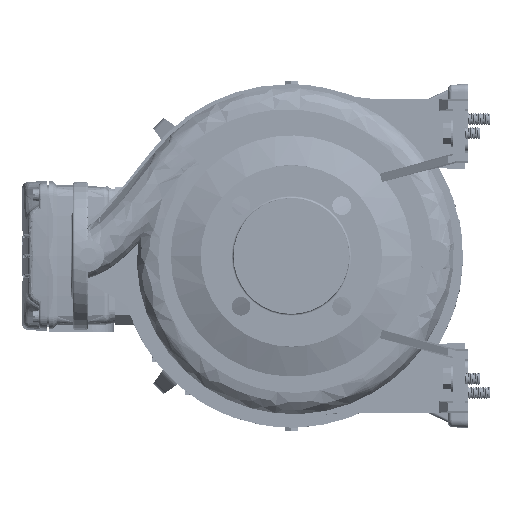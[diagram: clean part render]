
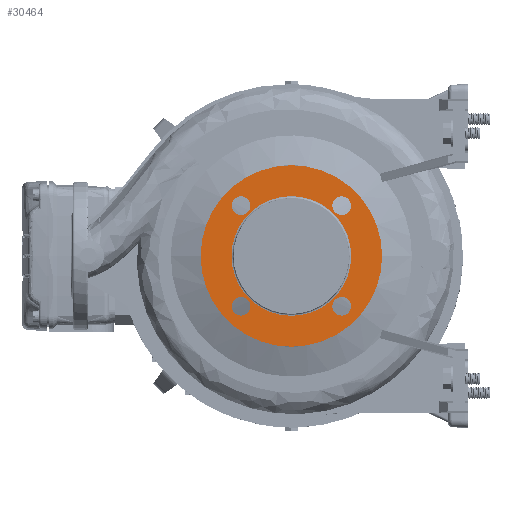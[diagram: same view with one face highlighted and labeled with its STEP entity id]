
A CAD part, left-side view. The second image highlights one B-rep face of the part: STEP entity #30464.
In plain terms, the highlighted planar face has unit normal (-1, 0, 0).
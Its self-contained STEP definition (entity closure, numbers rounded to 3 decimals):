
#5028 = AXIS2_PLACEMENT_3D ( 'NONE', #119740, #189684, #221843 ) ;
#5063 = VERTEX_POINT ( 'NONE', #206692 ) ;
#8277 = CARTESIAN_POINT ( 'NONE',  ( -65.146, 174.847, 267.323 ) ) ;
#9920 = VERTEX_POINT ( 'NONE', #21367 ) ;
#9933 = FACE_BOUND ( 'NONE', #67224, .T. ) ;
#11187 = AXIS2_PLACEMENT_3D ( 'NONE', #107379, #20139, #56855 ) ;
#14405 = EDGE_LOOP ( 'NONE', ( #71983, #94951 ) ) ;
#15901 = EDGE_CURVE ( 'NONE', #42062, #204725, #52524, .T. ) ;
#20139 = DIRECTION ( 'NONE',  ( -1., 0., 0. ) ) ;
#21367 = CARTESIAN_POINT ( 'NONE',  ( -65.146, 258.377, 267.323 ) ) ;
#22665 = CIRCLE ( 'NONE', #11187, 9.5 ) ;
#22918 = EDGE_CURVE ( 'NONE', #5063, #9920, #73671, .T. ) ;
#23123 = CIRCLE ( 'NONE', #206379, 61. ) ;
#24004 = CARTESIAN_POINT ( 'NONE',  ( -65.146, 165.347, 369.854 ) ) ;
#24246 = CARTESIAN_POINT ( 'NONE',  ( -65.146, 267.877, 369.854 ) ) ;
#24605 = EDGE_LOOP ( 'NONE', ( #154855, #47016 ) ) ;
#26669 = EDGE_CURVE ( 'NONE', #55309, #167031, #137102, .T. ) ;
#27542 = DIRECTION ( 'NONE',  ( 0., 0., -1. ) ) ;
#30464 = ADVANCED_FACE ( 'NONE', ( #48859, #186609, #132765, #221036, #9933, #79960 ), #171609, .T. ) ;
#35647 = CIRCLE ( 'NONE', #189464, 61. ) ;
#36079 = CARTESIAN_POINT ( 'NONE',  ( -65.146, 216.612, 318.588 ) ) ;
#38151 = AXIS2_PLACEMENT_3D ( 'NONE', #24004, #196181, #38991 ) ;
#38991 = DIRECTION ( 'NONE',  ( 0., 0., -1. ) ) ;
#42062 = VERTEX_POINT ( 'NONE', #164799 ) ;
#43657 = ORIENTED_EDGE ( 'NONE', *, *, #168333, .T. ) ;
#45190 = VERTEX_POINT ( 'NONE', #8277 ) ;
#45510 = DIRECTION ( 'NONE',  ( 0., 0., 1. ) ) ;
#45878 = DIRECTION ( 'NONE',  ( -1., 0., 0. ) ) ;
#46629 = DIRECTION ( 'NONE',  ( 0., -1., 0. ) ) ;
#47016 = ORIENTED_EDGE ( 'NONE', *, *, #22918, .F. ) ;
#48161 = CARTESIAN_POINT ( 'NONE',  ( -65.146, 267.877, 369.854 ) ) ;
#48859 = FACE_BOUND ( 'NONE', #24605, .T. ) ;
#49370 = DIRECTION ( 'NONE',  ( 1., 0., 0. ) ) ;
#49714 = AXIS2_PLACEMENT_3D ( 'NONE', #121216, #138431, #122352 ) ;
#52524 = CIRCLE ( 'NONE', #202728, 9.5 ) ;
#54388 = ORIENTED_EDGE ( 'NONE', *, *, #224987, .F. ) ;
#55309 = VERTEX_POINT ( 'NONE', #190754 ) ;
#55437 = AXIS2_PLACEMENT_3D ( 'NONE', #137044, #84225, #155339 ) ;
#56855 = DIRECTION ( 'NONE',  ( 0., 1., 0. ) ) ;
#59001 = EDGE_CURVE ( 'NONE', #45190, #131690, #22665, .T. ) ;
#59892 = CIRCLE ( 'NONE', #5028, 9.5 ) ;
#67224 = EDGE_LOOP ( 'NONE', ( #43657, #140438 ) ) ;
#68298 = DIRECTION ( 'NONE',  ( 1., 0., 0. ) ) ;
#68766 = AXIS2_PLACEMENT_3D ( 'NONE', #185485, #224399, #46629 ) ;
#69701 = AXIS2_PLACEMENT_3D ( 'NONE', #78103, #45878, #27542 ) ;
#70203 = EDGE_CURVE ( 'NONE', #204725, #42062, #149841, .T. ) ;
#71983 = ORIENTED_EDGE ( 'NONE', *, *, #26669, .F. ) ;
#73671 = CIRCLE ( 'NONE', #55437, 9.5 ) ;
#76615 = DIRECTION ( 'NONE',  ( 1., 0., 0. ) ) ;
#78103 = CARTESIAN_POINT ( 'NONE',  ( -65.146, 165.347, 369.854 ) ) ;
#79960 = FACE_OUTER_BOUND ( 'NONE', #220532, .T. ) ;
#81885 = EDGE_LOOP ( 'NONE', ( #133216, #182236 ) ) ;
#84225 = DIRECTION ( 'NONE',  ( -1., 0., 0. ) ) ;
#85594 = EDGE_CURVE ( 'NONE', #218340, #121469, #134154, .T. ) ;
#88670 = ORIENTED_EDGE ( 'NONE', *, *, #59001, .F. ) ;
#92714 = DIRECTION ( 'NONE',  ( 0., 1., 0. ) ) ;
#94022 = ORIENTED_EDGE ( 'NONE', *, *, #85594, .F. ) ;
#94951 = ORIENTED_EDGE ( 'NONE', *, *, #162644, .F. ) ;
#102390 = CARTESIAN_POINT ( 'NONE',  ( -65.146, 258.377, 369.854 ) ) ;
#103081 = CIRCLE ( 'NONE', #121451, 9.5 ) ;
#104783 = EDGE_CURVE ( 'NONE', #121469, #218340, #144379, .T. ) ;
#105924 = AXIS2_PLACEMENT_3D ( 'NONE', #48161, #223711, #222582 ) ;
#107379 = CARTESIAN_POINT ( 'NONE',  ( -65.146, 165.347, 267.323 ) ) ;
#110366 = DIRECTION ( 'NONE',  ( -1., 0., 0. ) ) ;
#113771 = DIRECTION ( 'NONE',  ( 0., -1., 0. ) ) ;
#118928 = CARTESIAN_POINT ( 'NONE',  ( -65.146, 267.877, 267.323 ) ) ;
#119740 = CARTESIAN_POINT ( 'NONE',  ( -65.146, 165.347, 267.323 ) ) ;
#121216 = CARTESIAN_POINT ( 'NONE',  ( -65.146, 216.612, 318.588 ) ) ;
#121451 = AXIS2_PLACEMENT_3D ( 'NONE', #118928, #132772, #45510 ) ;
#121469 = VERTEX_POINT ( 'NONE', #175741 ) ;
#121764 = CARTESIAN_POINT ( 'NONE',  ( -65.146, 155.612, 318.588 ) ) ;
#122352 = DIRECTION ( 'NONE',  ( 0., 1., 0. ) ) ;
#131690 = VERTEX_POINT ( 'NONE', #220450 ) ;
#132765 = FACE_BOUND ( 'NONE', #14405, .T. ) ;
#132772 = DIRECTION ( 'NONE',  ( -1., 0., 0. ) ) ;
#133216 = ORIENTED_EDGE ( 'NONE', *, *, #70203, .F. ) ;
#134154 = CIRCLE ( 'NONE', #49714, 92.5 ) ;
#136950 = VERTEX_POINT ( 'NONE', #226310 ) ;
#136995 = CARTESIAN_POINT ( 'NONE',  ( -65.146, 174.847, 369.854 ) ) ;
#137044 = CARTESIAN_POINT ( 'NONE',  ( -65.146, 267.877, 267.323 ) ) ;
#137102 = CIRCLE ( 'NONE', #38151, 9.5 ) ;
#138431 = DIRECTION ( 'NONE',  ( 1., 0., 0. ) ) ;
#140438 = ORIENTED_EDGE ( 'NONE', *, *, #172123, .T. ) ;
#144379 = CIRCLE ( 'NONE', #173131, 92.5 ) ;
#147574 = EDGE_LOOP ( 'NONE', ( #54388, #88670 ) ) ;
#149841 = CIRCLE ( 'NONE', #105924, 9.5 ) ;
#151572 = CARTESIAN_POINT ( 'NONE',  ( -65.146, 216.612, 318.588 ) ) ;
#154855 = ORIENTED_EDGE ( 'NONE', *, *, #166505, .F. ) ;
#155339 = DIRECTION ( 'NONE',  ( 0., 0., 1. ) ) ;
#156218 = CARTESIAN_POINT ( 'NONE',  ( -65.146, 309.112, 318.588 ) ) ;
#160007 = DIRECTION ( 'NONE',  ( 0., 1., 0. ) ) ;
#162644 = EDGE_CURVE ( 'NONE', #167031, #55309, #219897, .T. ) ;
#164799 = CARTESIAN_POINT ( 'NONE',  ( -65.146, 277.377, 369.854 ) ) ;
#166505 = EDGE_CURVE ( 'NONE', #9920, #5063, #103081, .T. ) ;
#167031 = VERTEX_POINT ( 'NONE', #136995 ) ;
#167401 = VERTEX_POINT ( 'NONE', #121764 ) ;
#168333 = EDGE_CURVE ( 'NONE', #136950, #167401, #23123, .T. ) ;
#171609 = PLANE ( 'NONE',  #68766 ) ;
#172123 = EDGE_CURVE ( 'NONE', #167401, #136950, #35647, .T. ) ;
#173131 = AXIS2_PLACEMENT_3D ( 'NONE', #197108, #76615, #92714 ) ;
#175741 = CARTESIAN_POINT ( 'NONE',  ( -65.146, 124.112, 318.588 ) ) ;
#182236 = ORIENTED_EDGE ( 'NONE', *, *, #15901, .F. ) ;
#185485 = CARTESIAN_POINT ( 'NONE',  ( -65.146, 277.612, 318.588 ) ) ;
#186609 = FACE_BOUND ( 'NONE', #147574, .T. ) ;
#189464 = AXIS2_PLACEMENT_3D ( 'NONE', #36079, #68298, #160007 ) ;
#189684 = DIRECTION ( 'NONE',  ( -1., 0., 0. ) ) ;
#190754 = CARTESIAN_POINT ( 'NONE',  ( -65.146, 155.847, 369.854 ) ) ;
#196181 = DIRECTION ( 'NONE',  ( -1., 0., 0. ) ) ;
#197108 = CARTESIAN_POINT ( 'NONE',  ( -65.146, 216.612, 318.588 ) ) ;
#202728 = AXIS2_PLACEMENT_3D ( 'NONE', #24246, #110366, #113771 ) ;
#204725 = VERTEX_POINT ( 'NONE', #102390 ) ;
#206343 = ORIENTED_EDGE ( 'NONE', *, *, #104783, .F. ) ;
#206379 = AXIS2_PLACEMENT_3D ( 'NONE', #151572, #49370, #221531 ) ;
#206692 = CARTESIAN_POINT ( 'NONE',  ( -65.146, 277.377, 267.323 ) ) ;
#218340 = VERTEX_POINT ( 'NONE', #156218 ) ;
#219897 = CIRCLE ( 'NONE', #69701, 9.5 ) ;
#220450 = CARTESIAN_POINT ( 'NONE',  ( -65.146, 155.847, 267.323 ) ) ;
#220532 = EDGE_LOOP ( 'NONE', ( #94022, #206343 ) ) ;
#221036 = FACE_BOUND ( 'NONE', #81885, .T. ) ;
#221531 = DIRECTION ( 'NONE',  ( 0., 1., 0. ) ) ;
#221843 = DIRECTION ( 'NONE',  ( 0., 1., 0. ) ) ;
#222582 = DIRECTION ( 'NONE',  ( 0., -1., 0. ) ) ;
#223711 = DIRECTION ( 'NONE',  ( -1., 0., 0. ) ) ;
#224399 = DIRECTION ( 'NONE',  ( -1., 0., 0. ) ) ;
#224987 = EDGE_CURVE ( 'NONE', #131690, #45190, #59892, .T. ) ;
#226310 = CARTESIAN_POINT ( 'NONE',  ( -65.146, 277.612, 318.588 ) ) ;
